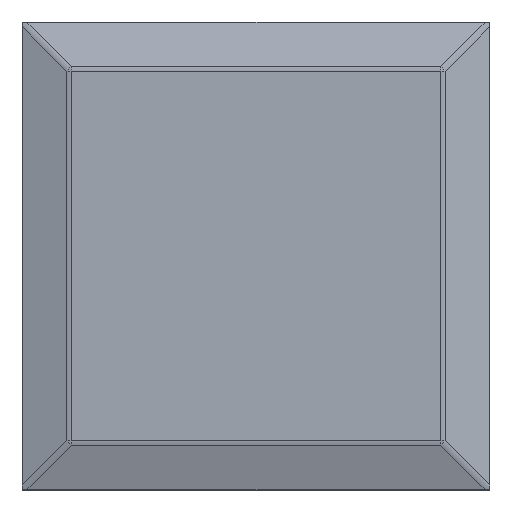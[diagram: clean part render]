
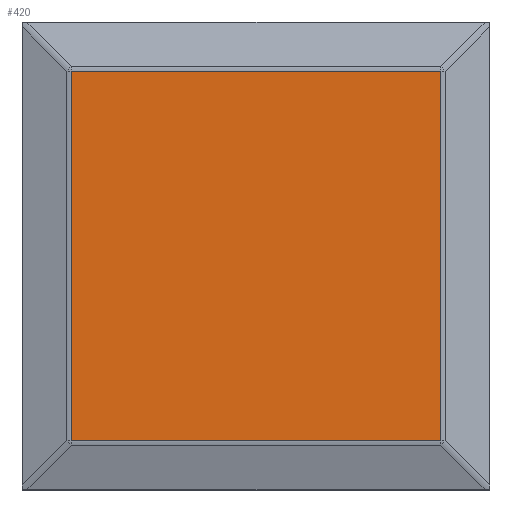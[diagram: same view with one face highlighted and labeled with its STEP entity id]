
A CAD part, top view. The second image highlights one B-rep face of the part: STEP entity #420.
In plain terms, the highlighted planar face has unit normal (0, 0, 1).
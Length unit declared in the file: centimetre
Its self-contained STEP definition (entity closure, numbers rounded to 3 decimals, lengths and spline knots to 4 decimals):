
#181=VERTEX_POINT('',#904);
#193=VERTEX_POINT('',#938);
#200=VERTEX_POINT('',#960);
#203=VERTEX_POINT('',#973);
#256=EDGE_CURVE('',#203,#200,#523,.T.);
#257=EDGE_CURVE('',#193,#181,#524,.T.);
#258=EDGE_CURVE('',#200,#193,#525,.T.);
#259=EDGE_CURVE('',#181,#203,#526,.T.);
#348=ORIENTED_EDGE('',*,*,#257,.F.);
#349=ORIENTED_EDGE('',*,*,#258,.F.);
#350=ORIENTED_EDGE('',*,*,#256,.F.);
#351=ORIENTED_EDGE('',*,*,#259,.F.);
#376=EDGE_LOOP('',(#348,#349,#350,#351));
#398=FACE_BOUND('',#376,.T.);
#420=ADVANCED_FACE('',(#398),#677,.T.);
#523=LINE('',#980,#661);
#524=LINE('',#982,#662);
#525=LINE('',#984,#663);
#526=LINE('',#986,#664);
#621=AXIS2_PLACEMENT_3D('',#987,#857,$);
#661=VECTOR('',#847,1.);
#662=VECTOR('',#850,1.);
#663=VECTOR('',#853,1.);
#664=VECTOR('',#856,1.);
#677=PLANE('',#621);
#847=DIRECTION('',(1.,0.,0.));
#850=DIRECTION('',(-1.,0.,0.));
#853=DIRECTION('',(0.,-1.,0.));
#856=DIRECTION('',(0.,1.,0.));
#857=DIRECTION('',(0.,0.,1.));
#904=CARTESIAN_POINT('',(-2.6838,0.3162,0.45));
#938=CARTESIAN_POINT('',(-0.3162,0.3162,0.45));
#960=CARTESIAN_POINT('',(-0.3162,2.6838,0.45));
#973=CARTESIAN_POINT('',(-2.6838,2.6838,0.45));
#980=CARTESIAN_POINT('',(-1.5,2.6838,0.45));
#982=CARTESIAN_POINT('',(-1.5,0.3162,0.45));
#984=CARTESIAN_POINT('',(-0.3162,1.5,0.45));
#986=CARTESIAN_POINT('',(-2.6838,1.5,0.45));
#987=CARTESIAN_POINT('',(-1.5,1.5,0.45));
